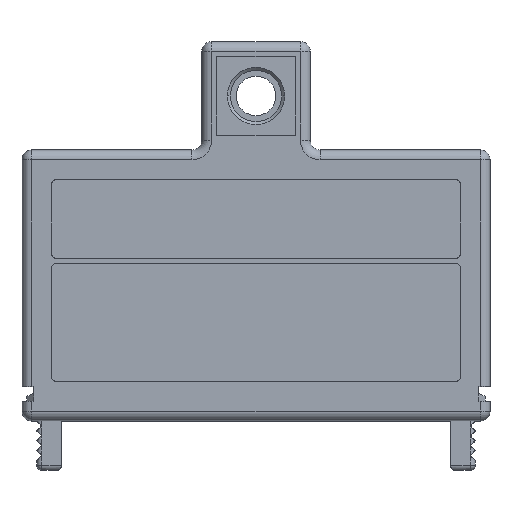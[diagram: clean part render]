
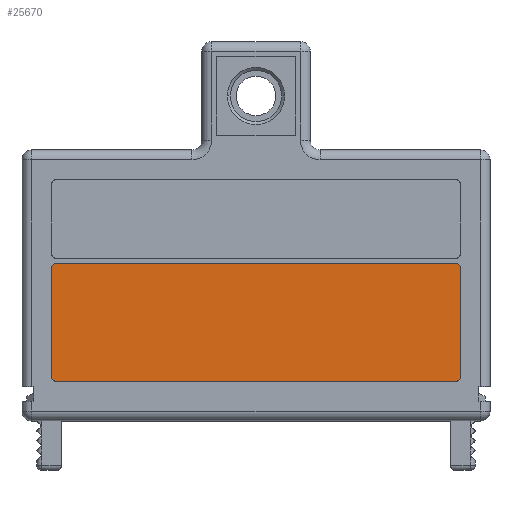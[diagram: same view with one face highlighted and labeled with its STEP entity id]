
A CAD part, top view. The second image highlights one B-rep face of the part: STEP entity #25670.
In plain terms, the highlighted planar face has unit normal (0, 0, 1).
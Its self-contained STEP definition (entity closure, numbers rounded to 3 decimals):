
#24090=CARTESIAN_POINT('',(0.,46.732,-0.3));
#24100=DIRECTION('',(1.,0.,0.));
#24110=VECTOR('',#24100,1.);
#24120=LINE('',#24090,#24110);
#24130=CARTESIAN_POINT('',(29.696,46.732,-0.3));
#24140=VERTEX_POINT('',#24130);
#24150=CARTESIAN_POINT('',(70.196,46.732,-0.3));
#24160=VERTEX_POINT('',#24150);
#24170=EDGE_CURVE('',#24140,#24160,#24120,.T.);
#24400=CARTESIAN_POINT('',(29.196,0.,-0.3));
#24410=DIRECTION('',(0.,-1.,0.));
#24420=VECTOR('',#24410,1.);
#24430=LINE('',#24400,#24420);
#24440=CARTESIAN_POINT('',(29.196,58.232,-0.3));
#24450=VERTEX_POINT('',#24440);
#24460=CARTESIAN_POINT('',(29.196,47.232,-0.3));
#24470=VERTEX_POINT('',#24460);
#24480=EDGE_CURVE('',#24450,#24470,#24430,.T.);
#24760=CARTESIAN_POINT('',(70.196,58.732,-0.3));
#24770=VERTEX_POINT('',#24760);
#24800=CARTESIAN_POINT('',(0.,58.732,-0.3));
#24810=DIRECTION('',(-1.,0.,0.));
#24820=VECTOR('',#24810,1.);
#24830=LINE('',#24800,#24820);
#24840=CARTESIAN_POINT('',(29.696,58.732,-0.3));
#24850=VERTEX_POINT('',#24840);
#24860=EDGE_CURVE('',#24770,#24850,#24830,.T.);
#25020=CARTESIAN_POINT('',(70.696,0.,-0.3));
#25030=DIRECTION('',(0.,1.,0.));
#25040=VECTOR('',#25030,1.);
#25050=LINE('',#25020,#25040);
#25060=CARTESIAN_POINT('',(70.696,47.232,-0.3));
#25070=VERTEX_POINT('',#25060);
#25080=CARTESIAN_POINT('',(70.696,58.232,-0.3));
#25090=VERTEX_POINT('',#25080);
#25100=EDGE_CURVE('',#25070,#25090,#25050,.T.);
#25280=CARTESIAN_POINT('',(0.,0.,-0.3));
#25290=DIRECTION('',(0.,0.,1.));
#25300=DIRECTION('',(1.,0.,0.));
#25310=AXIS2_PLACEMENT_3D('',#25280,#25290,#25300);
#25320=PLANE('',#25310);
#25330=CARTESIAN_POINT('',(29.696,47.232,-0.3));
#25340=DIRECTION('',(0.,0.,-1.));
#25350=DIRECTION('',(-1.,0.,0.));
#25360=AXIS2_PLACEMENT_3D('',#25330,#25340,#25350);
#25370=CIRCLE('',#25360,0.5);
#25380=EDGE_CURVE('',#24140,#24470,#25370,.T.);
#25390=ORIENTED_EDGE('',*,*,#25380,.F.);
#25400=ORIENTED_EDGE('',*,*,#24480,.T.);
#25410=CARTESIAN_POINT('',(29.696,58.232,-0.3));
#25420=DIRECTION('',(0.,0.,-1.));
#25430=DIRECTION('',(-1.,0.,0.));
#25440=AXIS2_PLACEMENT_3D('',#25410,#25420,#25430);
#25450=CIRCLE('',#25440,0.5);
#25460=EDGE_CURVE('',#24450,#24850,#25450,.T.);
#25470=ORIENTED_EDGE('',*,*,#25460,.F.);
#25480=ORIENTED_EDGE('',*,*,#24860,.T.);
#25490=CARTESIAN_POINT('',(70.196,58.232,-0.3));
#25500=DIRECTION('',(0.,0.,-1.));
#25510=DIRECTION('',(-1.,0.,0.));
#25520=AXIS2_PLACEMENT_3D('',#25490,#25500,#25510);
#25530=CIRCLE('',#25520,0.5);
#25540=EDGE_CURVE('',#24770,#25090,#25530,.T.);
#25550=ORIENTED_EDGE('',*,*,#25540,.F.);
#25560=ORIENTED_EDGE('',*,*,#25100,.T.);
#25570=CARTESIAN_POINT('',(70.196,47.232,-0.3));
#25580=DIRECTION('',(0.,0.,-1.));
#25590=DIRECTION('',(-1.,0.,0.));
#25600=AXIS2_PLACEMENT_3D('',#25570,#25580,#25590);
#25610=CIRCLE('',#25600,0.5);
#25620=EDGE_CURVE('',#25070,#24160,#25610,.T.);
#25630=ORIENTED_EDGE('',*,*,#25620,.F.);
#25640=ORIENTED_EDGE('',*,*,#24170,.T.);
#25650=EDGE_LOOP('',(#25640,#25630,#25560,#25550,#25480,#25470,#25400,
#25390));
#25660=FACE_OUTER_BOUND('',#25650,.T.);
#25670=ADVANCED_FACE('',(#25660),#25320,.T.);
